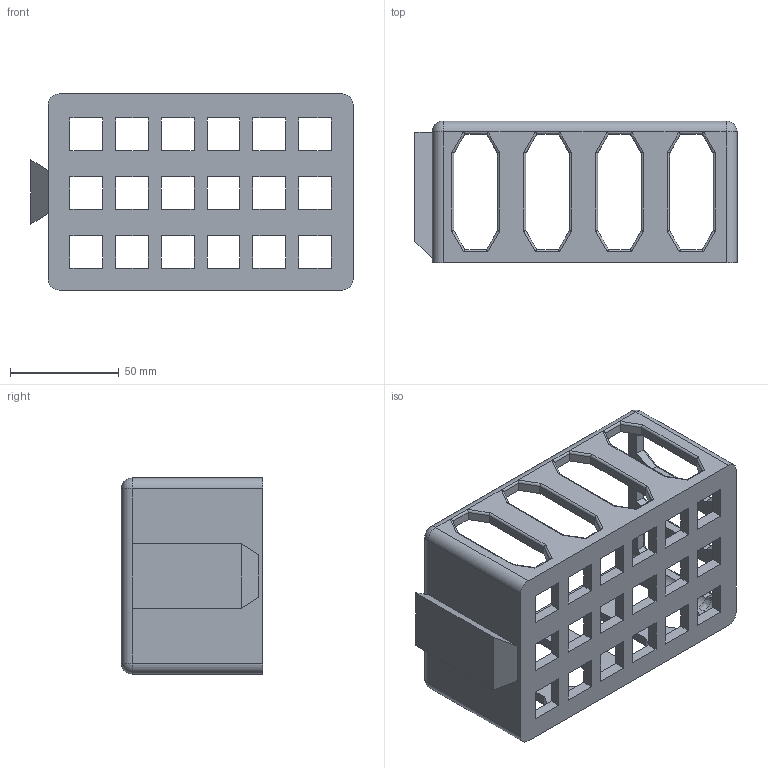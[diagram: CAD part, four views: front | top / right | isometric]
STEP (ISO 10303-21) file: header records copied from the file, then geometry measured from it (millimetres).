
FILE_DESCRIPTION (( 'STEP AP214' ), '1' );
FILE_NAME ('DS_v2_Kosik.STEP', '2026-03-22T08:43:30', ( '' ), ( '' ), 'SwSTEP 2.0', 'SolidWorks 2026', '' );
FILE_SCHEMA (( 'AUTOMOTIVE_DESIGN' ));
Length unit declared in the file: millimetre
Products named in the file (1): DS_v2_Kosik
Bounding box: 147.9 x 65 x 90 mm (x, y, z)
Volume: 128720.6 mm3; surface area: 62564.1 mm2
Topology: 1 solids, 1 shells, 293 faces, 794 edges, 484 vertices
Faces by surface type: plane 175, cylinder 106, bspline 8, sphere 4
Entity records: 9207 total; most frequent: CARTESIAN_POINT 2164, ORIENTED_EDGE 1580, DIRECTION 1266, EDGE_CURVE 790, VECTOR 638, LINE 638, VERTEX_POINT 484, EDGE_LOOP 336
